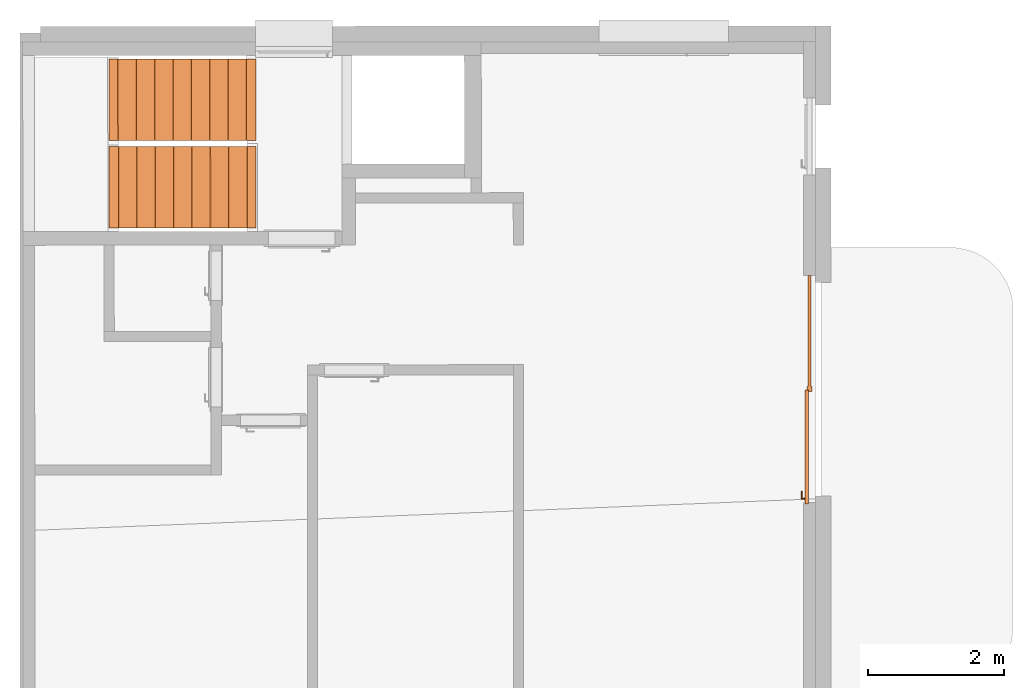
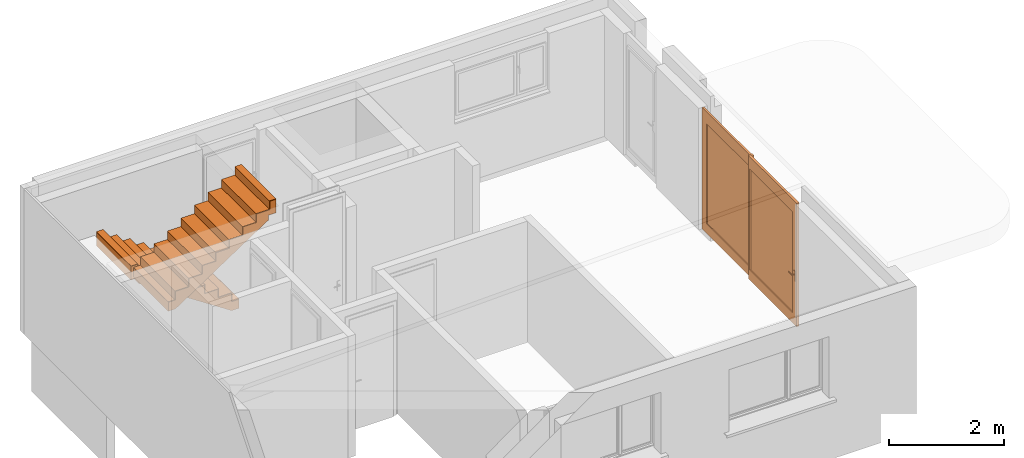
# One storey, part 7 of 8: 5 proxies.
"""IFC2X3 building model written with IfcOpenShell, lengths in metres."""

from ifc_helpers import new_model, entity, si_unit, converted_unit, derived_unit, direction, frame, origin, origin_with_axes, place, context, subcontext, project, spatial, closed_shell, open_shell, faceted_brep, surface_model, source, transform, mapped, element, save


model = new_model("IFC2X3")

# Units and contexts
model_context = context("Model", 3, precision=1e-05, world=origin(), true_north=direction((0.772621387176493, -0.634867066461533)))
body_context = subcontext(model_context, "Body", "Model", "MODEL_VIEW")
ifc_project = project(units=[si_unit("LENGTHUNIT", "METRE"), si_unit("AREAUNIT", "SQUARE_METRE"), si_unit("VOLUMEUNIT", "CUBIC_METRE"), si_unit("MASSUNIT", "GRAM", prefix="KILO"), converted_unit("PLANEANGLEUNIT", "DEGREE", entity("IfcPlaneAngleMeasure", 0.0174532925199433), si_unit("PLANEANGLEUNIT", "RADIAN"), dimensions=[0, 0, 0, 0, 0, 0, 0]), derived_unit("THERMALTRANSMITTANCEUNIT", [(si_unit("POWERUNIT", "WATT"), 1), (si_unit("THERMODYNAMICTEMPERATUREUNIT", "KELVIN"), -1), (si_unit("LENGTHUNIT", "METRE"), -2)]), derived_unit("VOLUMETRICFLOWRATEUNIT", [(si_unit("LENGTHUNIT", "METRE"), 3), (converted_unit("TIMEUNIT", "hour", entity("IfcTimeMeasure", 3600.0), si_unit("TIMEUNIT", "SECOND"), dimensions=[0, 0, 1, 0, 0, 0, 0]), -1), (si_unit("LENGTHUNIT", "METRE"), -1)])], contexts=[model_context])

# Site, building, storey
site_placement = place(None, origin())
site = spatial("IfcSite", under=ifc_project, at=site_placement, Name="Modelle auf dem Nullpunkt", CompositionType="ELEMENT")
building_placement = place(site_placement, origin())
building = spatial("IfcBuilding", under=site, at=building_placement, Name="I", CompositionType="ELEMENT")
storey_placement = place(building_placement, origin())
storey = spatial("IfcBuildingStorey", under=building, at=storey_placement, Name="2.OG", CompositionType="ELEMENT", Elevation=0.0)

# Proxies
shared_shape = source(origin_with_axes(), body_context, "Body", "SurfaceModel", [
    surface_model("IfcShellBasedSurfaceModel", [(1.65500000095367, 0.0, 2.59), (1.72500000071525, 0.0, 2.59), (1.72500000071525, 0.0, 0.02), (1.65500000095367, 0.0, 0.02), (1.65500000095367, 0.0699999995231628, 0.02), (1.72500000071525, 0.07, 0.02), (1.72500000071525, 0.07, 2.59), (1.65500000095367, 0.0699999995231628, 2.59)], [closed_shell([[[0, 1, 2, 3]], [[4, 5, 6, 7]], [[3, 4, 7, 0]], [[2, 5, 4, 3]], [[1, 6, 5, 2]], [[0, 7, 6, 1]]], orient=[[False], [False], [False], [False], [False], [False]])]),
    surface_model("IfcShellBasedSurfaceModel", [(0.0, 0.0499999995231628, 2.61), (0.15, 0.05, 2.61), (0.15, 0.05, 0.0), (0.0, 0.0499999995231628, 0.0), (0.0, 0.0999999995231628, 0.0), (0.150000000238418, 0.0999999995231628, 0.0), (0.150000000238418, 0.0999999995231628, 2.61), (0.0, 0.0999999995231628, 2.61)], [closed_shell([[[0, 1, 2, 3]], [[4, 5, 6, 7]], [[3, 4, 7, 0]], [[2, 5, 4, 3]], [[1, 6, 5, 2]], [[0, 7, 6, 1]]], orient=[[False], [False], [False], [False], [False], [False]])]),
    surface_model("IfcShellBasedSurfaceModel", [(1.63500000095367, 0.05, 2.61), (1.67500000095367, 0.05, 2.61), (1.67500000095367, 0.05, 0.0), (1.63500000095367, 0.05, 0.0), (1.63500000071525, 0.0999999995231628, 0.0), (1.67500000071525, 0.0999999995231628, 0.0), (1.67500000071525, 0.0999999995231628, 2.61), (1.63500000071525, 0.0999999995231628, 2.61)], [closed_shell([[[0, 1, 2, 3]], [[4, 5, 6, 7]], [[3, 4, 7, 0]], [[2, 5, 4, 3]], [[1, 6, 5, 2]], [[0, 7, 6, 1]]], orient=[[False], [False], [False], [False], [False], [False]])]),
    surface_model("IfcShellBasedSurfaceModel", [(0.15, 0.05, 0.21), (1.63500000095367, 0.05, 0.21), (1.63500000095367, 0.05, 0.0), (0.15, 0.05, 0.0), (0.150000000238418, 0.0999999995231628, 0.0), (1.63500000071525, 0.0999999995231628, 0.0), (1.63500000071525, 0.0999999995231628, 0.21), (0.150000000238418, 0.0999999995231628, 0.21)], [closed_shell([[[0, 1, 2, 3]], [[4, 5, 6, 7]], [[3, 4, 7, 0]], [[2, 5, 4, 3]], [[1, 6, 5, 2]], [[0, 7, 6, 1]]], orient=[[False], [False], [False], [False], [False], [False]])]),
    surface_model("IfcShellBasedSurfaceModel", [(0.15, 0.05, 2.61), (1.63500000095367, 0.05, 2.61), (1.63500000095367, 0.05, 2.35), (0.15, 0.05, 2.35), (0.150000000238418, 0.0999999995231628, 2.35), (1.63500000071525, 0.0999999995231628, 2.35), (1.63500000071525, 0.0999999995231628, 2.61), (0.150000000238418, 0.0999999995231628, 2.61)], [closed_shell([[[0, 1, 2, 3]], [[4, 5, 6, 7]], [[3, 4, 7, 0]], [[2, 5, 4, 3]], [[1, 6, 5, 2]], [[0, 7, 6, 1]]], orient=[[False], [False], [False], [False], [False], [False]])]),
    surface_model("IfcShellBasedSurfaceModel", [(0.0500000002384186, 0.0999999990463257, 1.145), (0.100000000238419, 0.0999999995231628, 1.145), (0.100000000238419, 0.0999999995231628, 0.93), (0.0500000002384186, 0.0999999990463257, 0.93), (0.0500000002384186, 0.109999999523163, 0.93), (0.100000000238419, 0.109999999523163, 0.93), (0.100000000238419, 0.109999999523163, 1.145), (0.0500000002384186, 0.109999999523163, 1.145)], [closed_shell([[[0, 1, 2, 3]], [[4, 5, 6, 7]], [[3, 4, 7, 0]], [[2, 5, 4, 3]], [[1, 6, 5, 2]], [[0, 7, 6, 1]]], orient=[[False], [False], [False], [False], [False], [False]])]),
    surface_model("IfcShellBasedSurfaceModel", [(0.0750000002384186, 0.109999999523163, 1.08), (0.08, 0.109999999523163, 1.07866025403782), (0.0836602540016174, 0.109999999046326, 1.075), (0.0850000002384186, 0.109999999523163, 1.07), (0.0836602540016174, 0.109999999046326, 1.065), (0.08, 0.109999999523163, 1.06133974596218), (0.0750000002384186, 0.109999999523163, 1.06), (0.0700000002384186, 0.109999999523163, 1.06133974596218), (0.0663397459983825, 0.109999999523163, 1.065), (0.065, 0.109999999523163, 1.07), (0.0663397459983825, 0.109999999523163, 1.075), (0.0700000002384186, 0.109999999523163, 1.07866025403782), (0.0700000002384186, 0.154999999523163, 1.07866025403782), (0.0750000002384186, 0.149999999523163, 1.08), (0.0663397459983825, 0.158660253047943, 1.075), (0.065, 0.159999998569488, 1.07), (0.0663397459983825, 0.158660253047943, 1.065), (0.0700000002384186, 0.154999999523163, 1.06133974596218), (0.0750000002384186, 0.149999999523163, 1.06), (0.0800000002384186, 0.144999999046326, 1.06133974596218), (0.083660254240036, 0.141339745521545, 1.065), (0.085, 0.139999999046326, 1.07), (0.083660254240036, 0.141339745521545, 1.075), (0.0800000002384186, 0.144999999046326, 1.07866025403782), (0.19, 0.149999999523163, 1.08), (0.19, 0.154999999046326, 1.07866025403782), (0.19, 0.158660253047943, 1.075), (0.19, 0.159999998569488, 1.07), (0.19, 0.158660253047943, 1.065), (0.19, 0.154999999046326, 1.06133974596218), (0.19, 0.149999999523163, 1.06), (0.19, 0.144999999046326, 1.06133974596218), (0.190000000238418, 0.141339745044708, 1.065), (0.19, 0.139999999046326, 1.07), (0.190000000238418, 0.141339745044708, 1.075), (0.19, 0.144999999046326, 1.07866025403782)], [closed_shell([[[0, 1, 2, 3, 4, 5, 6, 7, 8, 9, 10, 11]], [[0, 11, 12, 13]], [[11, 10, 14, 12]], [[10, 9, 15, 14]], [[9, 8, 16, 15]], [[8, 7, 17, 16]], [[7, 6, 18, 17]], [[6, 5, 19, 18]], [[5, 4, 20, 19]], [[4, 3, 21, 20]], [[3, 2, 22, 21]], [[2, 1, 23, 22]], [[1, 0, 13, 23]], [[24, 25, 26, 27, 28, 29, 30, 31, 32, 33, 34, 35]], [[13, 12, 25, 24]], [[12, 14, 26, 25]], [[14, 15, 27, 26]], [[15, 16, 28, 27]], [[16, 17, 29, 28]], [[17, 18, 30, 29]], [[18, 19, 31, 30]], [[19, 20, 32, 31]], [[20, 21, 33, 32]], [[21, 22, 34, 33]], [[22, 23, 35, 34]], [[23, 13, 24, 35]]], orient=[[False], [False], [False], [False], [False], [False], [False], [False], [False], [False], [False], [False], [False], [False], [False], [False], [False], [False], [False], [False], [False], [False], [False], [False], [False], [False]])]),
    surface_model("IfcShellBasedSurfaceModel", [(1.72500000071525, 0.015, 2.59), (1.74500000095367, 0.015, 2.59), (1.74500000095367, 0.015, 0.02), (1.72500000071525, 0.015, 0.02), (1.72500000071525, 0.055, 0.02), (1.74500000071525, 0.055, 0.02), (1.74500000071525, 0.055, 2.59), (1.72500000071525, 0.055, 2.59)], [closed_shell([[[0, 1, 2, 3]], [[4, 5, 6, 7]], [[3, 4, 7, 0]], [[2, 5, 4, 3]], [[1, 6, 5, 2]], [[0, 7, 6, 1]]], orient=[[False], [False], [False], [False], [False], [False]])]),
    surface_model("IfcShellBasedSurfaceModel", [(3.21000000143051, 0.015, 2.59), (3.36000000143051, 0.0149999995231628, 2.59), (3.36000000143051, 0.0149999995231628, 0.02), (3.21000000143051, 0.015, 0.02), (3.21000000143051, 0.055, 0.02), (3.36000000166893, 0.055, 0.02), (3.36000000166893, 0.055, 2.59), (3.21000000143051, 0.055, 2.59)], [closed_shell([[[0, 1, 2, 3]], [[4, 5, 6, 7]], [[3, 4, 7, 0]], [[2, 5, 4, 3]], [[1, 6, 5, 2]], [[0, 7, 6, 1]]], orient=[[False], [False], [False], [False], [False], [False]])]),
    surface_model("IfcShellBasedSurfaceModel", [(1.74500000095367, 0.015, 0.22), (3.21000000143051, 0.015, 0.22), (3.21000000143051, 0.015, 0.02), (1.74500000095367, 0.015, 0.02), (1.74500000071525, 0.055, 0.02), (3.21000000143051, 0.055, 0.02), (3.21000000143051, 0.055, 0.22), (1.74500000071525, 0.055, 0.22)], [closed_shell([[[0, 1, 2, 3]], [[4, 5, 6, 7]], [[3, 4, 7, 0]], [[2, 5, 4, 3]], [[1, 6, 5, 2]], [[0, 7, 6, 1]]], orient=[[False], [False], [False], [False], [False], [False]])]),
    surface_model("IfcShellBasedSurfaceModel", [(1.74500000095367, 0.015, 2.59), (3.21000000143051, 0.015, 2.59), (3.21000000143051, 0.015, 2.34), (1.74500000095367, 0.015, 2.34), (1.74500000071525, 0.055, 2.34), (3.21000000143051, 0.055, 2.34), (3.21000000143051, 0.055, 2.59), (1.74500000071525, 0.055, 2.59)], [closed_shell([[[0, 1, 2, 3]], [[4, 5, 6, 7]], [[3, 4, 7, 0]], [[2, 5, 4, 3]], [[1, 6, 5, 2]], [[0, 7, 6, 1]]], orient=[[False], [False], [False], [False], [False], [False]])]),
    surface_model("IfcShellBasedSurfaceModel", [(0.150000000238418, 0.0749999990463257, 0.21), (0.150000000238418, 0.0749999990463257, 2.35), (1.63500000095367, 0.0749999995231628, 2.35), (1.63500000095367, 0.0749999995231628, 0.21)], [open_shell([[[0, 1, 2, 3]]], orient=[[False]])]),
    surface_model("IfcShellBasedSurfaceModel", [(1.74500000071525, 0.035, 0.22), (1.74500000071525, 0.035, 2.34), (3.21000000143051, 0.0349999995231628, 2.34), (3.21000000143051, 0.0349999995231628, 0.22)], [open_shell([[[0, 1, 2, 3]]], orient=[[False]])]),
])
proxy_1_placement = place(storey_placement, frame((40.9768506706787, -4.65928245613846, 441.65), z_axis=(0.0, 0.0, 1.0), x_axis=(-0.000353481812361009, 0.999999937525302, 0.0)))
element("IfcBuildingElementProxy", 1, at=proxy_1_placement, inside=storey, Name="1flg Weiß Blockzarge", context=body_context, shape_type="MappedRepresentation", body=[
    mapped(shared_shape, transform((0.0, 0.0, 0.0), x_axis=(1.0, 0.0, 0.0), y_axis=(0.0, 1.0, 0.0), z_axis=(0.0, 0.0, 1.0), scale=1.0)),
])
proxy_2_placement = place(storey_placement, frame((30.6378226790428, -0.602936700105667, 443.103258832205)))
element("IfcBuildingElementProxy", 2, at=proxy_2_placement, inside=storey, context=body_context, shape_type="Brep", body=[
    faceted_brep([(2.0350686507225, 1.20071928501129, 1.6167079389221), (2.0350686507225, 1.20071928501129, 1.43860688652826), (1.76506008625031, 1.20062384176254, 1.43860688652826), (1.76506008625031, 1.20062384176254, 1.26046397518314), (1.49505565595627, 1.20052840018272, 1.26046397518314), (1.49505565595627, 1.20052840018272, 1.08232054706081), (1.22504683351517, 1.20043295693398, 1.08232054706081), (1.22504683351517, 1.20043295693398, 0.904220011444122), (0.95504240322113, 1.20033751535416, 0.904220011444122), (0.95504240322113, 1.20033751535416, 0.726077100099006), (0.685054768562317, 1.2002420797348, 0.726077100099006), (0.685054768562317, 1.2002420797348, 0.547933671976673), (0.415045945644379, 1.20014663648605, 0.547933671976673), (0.415045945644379, 1.20014663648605, 0.369833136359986), (0.14503763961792, 1.20005119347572, 0.369833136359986), (0.14503763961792, 1.20005119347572, 0.191689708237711), (0.0, 1.19999992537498, 0.191689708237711), (0.0, 1.19999992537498, 0.0), (0.14503763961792, 1.20005119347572, 0.0), (2.00506637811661, 1.20070867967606, 1.22710445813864), (2.00506637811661, 1.20070867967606, 1.32857985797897), (2.16007368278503, 1.20076347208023, 1.32857985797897), (2.16007368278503, 1.20076347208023, 1.6167079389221), (2.03549282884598, 0.000719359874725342, 1.6167079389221), (2.16049786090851, 0.000763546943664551, 1.6167079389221), (2.16049786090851, 0.000763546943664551, 1.32857985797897), (2.00549055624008, 0.000708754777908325, 1.32857985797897), (2.00549055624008, 0.000708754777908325, 1.22710445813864), (0.145461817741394, 5.12683391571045e-05, 0.0), (0.000424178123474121, 0.0, 0.0), (0.000424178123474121, 0.0, 0.191689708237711), (0.145461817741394, 5.12683391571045e-05, 0.191689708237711), (0.145461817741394, 5.12683391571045e-05, 0.369833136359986), (0.415470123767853, 0.000146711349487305, 0.369833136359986), (0.415470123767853, 0.000146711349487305, 0.547933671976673), (0.685478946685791, 0.000242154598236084, 0.547933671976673), (0.685478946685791, 0.000242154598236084, 0.726077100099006), (0.955466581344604, 0.000337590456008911, 0.726077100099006), (0.955466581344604, 0.000337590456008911, 0.904220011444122), (1.22547101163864, 0.000433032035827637, 0.904220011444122), (1.22547101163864, 0.000433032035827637, 1.08232054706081), (1.49547983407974, 0.000528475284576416, 1.08232054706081), (1.49547983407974, 0.000528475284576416, 1.26046397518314), (1.76548426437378, 0.000623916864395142, 1.26046397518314), (1.76548426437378, 0.000623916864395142, 1.43860688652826), (2.03549282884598, 0.000719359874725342, 1.43860688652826)], [[[0, 1, 2, 3, 4, 5, 6, 7, 8, 9, 10, 11, 12, 13, 14, 15, 16, 17, 18, 19, 20, 21, 22]], [[23, 24, 25, 26, 27, 28, 29, 30, 31, 32, 33, 34, 35, 36, 37, 38, 39, 40, 41, 42, 43, 44, 45]], [[24, 23, 0, 22]], [[25, 24, 22, 21]], [[26, 25, 21, 20]], [[27, 26, 20, 19]], [[28, 27, 19, 18]], [[29, 28, 18, 17]], [[30, 29, 17, 16]], [[31, 30, 16, 15]], [[32, 31, 15, 14]], [[33, 32, 14, 13]], [[34, 33, 13, 12]], [[35, 34, 12, 11]], [[36, 35, 11, 10]], [[37, 36, 10, 9]], [[38, 37, 9, 8]], [[39, 38, 8, 7]], [[40, 39, 7, 6]], [[41, 40, 6, 5]], [[42, 41, 5, 4]], [[43, 42, 4, 3]], [[44, 43, 3, 2]], [[45, 44, 2, 1]], [[23, 45, 1, 0]]], orient=[[False], [False], [False], [False], [False], [False], [False], [False], [False], [False], [False], [False], [False], [False], [False], [False], [False], [False], [False], [False], [False], [False], [False], [False], [False]]),
])
proxy_3_placement = place(storey_placement, frame((30.6378226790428, -0.602936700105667, 443.294948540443)))
element("IfcBuildingElementProxy", 3, at=proxy_3_placement, inside=storey, context=body_context, shape_type="Brep", body=[
    faceted_brep([(2.02506927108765, 1.20071575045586, 1.43505145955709), (2.02506927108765, 1.20071575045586, 1.25690803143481), (1.75506070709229, 1.20062030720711, 1.25690803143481), (1.75506070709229, 1.20062030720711, 1.07876512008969), (1.48505627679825, 1.20052486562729, 1.07876512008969), (1.48505627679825, 1.20052486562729, 0.90066406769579), (1.21504745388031, 1.20042942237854, 0.90066406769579), (1.21504745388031, 1.20042942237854, 0.722521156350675), (0.94504302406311, 1.20033398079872, 0.722521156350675), (0.94504302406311, 1.20033398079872, 0.544378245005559), (0.675021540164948, 1.20023853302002, 0.544378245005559), (0.675021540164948, 1.20023853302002, 0.366234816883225), (0.405012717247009, 1.20014308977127, 0.366234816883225), (0.405012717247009, 1.20014308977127, 0.188134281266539), (0.135004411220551, 1.20004764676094, 0.188134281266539), (0.135004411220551, 1.20004764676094, 0.00999136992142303), (0.0, 1.19999992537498, 0.00999136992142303), (0.0, 1.19999992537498, 0.0), (0.14503763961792, 1.20005119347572, 0.0), (0.14503763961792, 1.20005119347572, 0.178143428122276), (0.415045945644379, 1.20014663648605, 0.178143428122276), (0.415045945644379, 1.20014663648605, 0.356243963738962), (0.685054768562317, 1.2002420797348, 0.356243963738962), (0.685054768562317, 1.2002420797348, 0.534387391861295), (0.95504240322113, 1.20033751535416, 0.534387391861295), (0.95504240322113, 1.20033751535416, 0.712530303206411), (1.22504683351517, 1.20043295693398, 0.712530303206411), (1.22504683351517, 1.20043295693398, 0.890630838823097), (1.49505565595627, 1.20052840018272, 0.890630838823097), (1.49505565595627, 1.20052840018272, 1.06877426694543), (1.76506008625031, 1.20062384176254, 1.06877426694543), (1.76506008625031, 1.20062384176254, 1.24691717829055), (2.0350686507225, 1.20071928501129, 1.24691717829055), (2.0350686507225, 1.20071928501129, 1.42501823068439), (2.16007368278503, 1.20076347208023, 1.42501823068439), (2.16007368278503, 1.20076347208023, 1.43505145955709), (2.02549344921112, 0.000715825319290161, 1.43505145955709), (2.16049786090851, 0.000763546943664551, 1.43505145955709), (2.16049786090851, 0.000763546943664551, 1.42501823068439), (2.03549282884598, 0.000719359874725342, 1.42501823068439), (2.03549282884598, 0.000719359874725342, 1.24691717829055), (1.76548426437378, 0.000623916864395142, 1.24691717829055), (1.76548426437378, 0.000623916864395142, 1.06877426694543), (1.49547983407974, 0.000528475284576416, 1.06877426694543), (1.49547983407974, 0.000528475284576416, 0.890630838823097), (1.22547101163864, 0.000433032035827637, 0.890630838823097), (1.22547101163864, 0.000433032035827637, 0.712530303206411), (0.955466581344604, 0.000337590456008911, 0.712530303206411), (0.955466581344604, 0.000337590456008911, 0.534387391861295), (0.685478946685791, 0.000242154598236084, 0.534387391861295), (0.685478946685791, 0.000242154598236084, 0.356243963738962), (0.415470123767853, 0.000146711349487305, 0.356243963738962), (0.415470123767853, 0.000146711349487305, 0.178143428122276), (0.145461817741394, 5.12683391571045e-05, 0.178143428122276), (0.145461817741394, 5.12683391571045e-05, 0.0), (0.000424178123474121, 0.0, 0.0), (0.000424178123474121, 0.0, 0.00999136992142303), (0.135428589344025, 4.77218627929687e-05, 0.00999136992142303), (0.135428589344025, 4.77218627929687e-05, 0.188134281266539), (0.405436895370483, 0.000143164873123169, 0.188134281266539), (0.405436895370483, 0.000143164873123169, 0.366234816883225), (0.675445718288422, 0.000238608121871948, 0.366234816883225), (0.675445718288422, 0.000238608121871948, 0.544378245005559), (0.945467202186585, 0.000334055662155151, 0.544378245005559), (0.945467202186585, 0.000334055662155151, 0.722521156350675), (1.21547163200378, 0.000429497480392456, 0.722521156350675), (1.21547163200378, 0.000429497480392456, 0.90066406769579), (1.48548045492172, 0.000524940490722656, 0.90066406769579), (1.48548045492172, 0.000524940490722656, 1.07876512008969), (1.75548488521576, 0.000620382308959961, 1.07876512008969), (1.75548488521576, 0.000620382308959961, 1.25690803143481), (2.02549344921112, 0.000715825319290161, 1.25690803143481)], [[[0, 1, 2, 3, 4, 5, 6, 7, 8, 9, 10, 11, 12, 13, 14, 15, 16, 17, 18, 19, 20, 21, 22, 23, 24, 25, 26, 27, 28, 29, 30, 31, 32, 33, 34, 35]], [[36, 37, 38, 39, 40, 41, 42, 43, 44, 45, 46, 47, 48, 49, 50, 51, 52, 53, 54, 55, 56, 57, 58, 59, 60, 61, 62, 63, 64, 65, 66, 67, 68, 69, 70, 71]], [[37, 36, 0, 35]], [[38, 37, 35, 34]], [[39, 38, 34, 33]], [[40, 39, 33, 32]], [[41, 40, 32, 31]], [[42, 41, 31, 30]], [[43, 42, 30, 29]], [[44, 43, 29, 28]], [[45, 44, 28, 27]], [[46, 45, 27, 26]], [[47, 46, 26, 25]], [[48, 47, 25, 24]], [[49, 48, 24, 23]], [[50, 49, 23, 22]], [[51, 50, 22, 21]], [[52, 51, 21, 20]], [[53, 52, 20, 19]], [[54, 53, 19, 18]], [[55, 54, 18, 17]], [[56, 55, 17, 16]], [[57, 56, 16, 15]], [[58, 57, 15, 14]], [[59, 58, 14, 13]], [[60, 59, 13, 12]], [[61, 60, 12, 11]], [[62, 61, 11, 10]], [[63, 62, 10, 9]], [[64, 63, 9, 8]], [[65, 64, 8, 7]], [[66, 65, 7, 6]], [[67, 66, 6, 5]], [[68, 67, 5, 4]], [[69, 68, 4, 3]], [[70, 69, 3, 2]], [[71, 70, 2, 1]], [[36, 71, 1, 0]]], orient=[[False], [False], [False], [False], [False], [False], [False], [False], [False], [False], [False], [False], [False], [False], [False], [False], [False], [False], [False], [False], [False], [False], [False], [False], [False], [False], [False], [False], [False], [False], [False], [False], [False], [False], [False], [False], [False], [False]]),
])
proxy_4_placement = place(storey_placement, frame((30.6368631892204, 0.687063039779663, 441.820008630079)))
element("IfcBuildingElementProxy", 4, at=proxy_4_placement, inside=storey, context=body_context, shape_type="Brep", body=[
    faceted_brep([(0.135004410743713, 1.20004764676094, 1.45999136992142), (0.0, 1.19999992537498, 1.45999136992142), (0.0, 1.19999992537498, 1.44995814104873), (0.125005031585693, 1.20004411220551, 1.44995814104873), (0.125005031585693, 1.20004411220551, 1.2469171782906), (0.395013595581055, 1.20013955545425, 1.2469171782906), (0.395013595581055, 1.20013955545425, 1.06877426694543), (0.665018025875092, 1.20023499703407, 1.06877426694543), (0.665018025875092, 1.20023499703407, 0.890630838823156), (0.93502684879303, 1.20033044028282, 0.890630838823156), (0.93502684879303, 1.20033044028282, 0.712530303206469), (1.20503127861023, 1.20042588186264, 0.712530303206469), (1.20503127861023, 1.20042588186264, 0.534387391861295), (1.47501891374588, 1.20052131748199, 0.534387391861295), (1.47501891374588, 1.20052131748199, 0.35624396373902), (1.74502773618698, 1.20061676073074, 0.35624396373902), (1.74502773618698, 1.20061676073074, 0.178143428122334), (2.01503604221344, 1.20071220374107, 0.178143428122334), (2.01503604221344, 1.20071220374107, 0.0), (2.16007368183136, 1.20076347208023, 0.0), (2.16007368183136, 1.20076347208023, 0.00999136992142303), (2.02506927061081, 1.20071575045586, 0.00999136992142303), (2.02506927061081, 1.20071575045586, 0.188134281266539), (1.75506096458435, 1.20062030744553, 0.188134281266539), (1.75506096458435, 1.20062030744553, 0.366234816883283), (1.48505214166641, 1.20052486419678, 0.366234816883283), (1.48505214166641, 1.20052486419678, 0.544378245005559), (1.21503065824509, 1.20042941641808, 0.544378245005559), (1.21503065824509, 1.20042941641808, 0.722521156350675), (0.94502622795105, 1.20033397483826, 0.722521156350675), (0.94502622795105, 1.20033397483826, 0.900664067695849), (0.675017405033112, 1.20023853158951, 0.900664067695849), (0.675017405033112, 1.20023853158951, 1.07876512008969), (0.405012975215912, 1.20014309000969, 1.07876512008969), (0.405012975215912, 1.20014309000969, 1.25690803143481), (0.135004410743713, 1.20004764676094, 1.25690803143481), (0.135428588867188, 4.77218627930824e-05, 1.45999136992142), (0.135428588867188, 4.77218627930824e-05, 1.25690803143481), (0.405437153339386, 0.000143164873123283, 1.25690803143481), (0.405437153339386, 0.000143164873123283, 1.07876512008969), (0.675441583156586, 0.000238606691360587, 1.07876512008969), (0.675441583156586, 0.000238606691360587, 0.900664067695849), (0.945450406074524, 0.000334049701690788, 0.900664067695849), (0.945450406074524, 0.000334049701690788, 0.722521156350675), (1.21545483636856, 0.000429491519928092, 0.722521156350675), (1.21545483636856, 0.000429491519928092, 0.544378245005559), (1.48547631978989, 0.000524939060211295, 0.544378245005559), (1.48547631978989, 0.000524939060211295, 0.366234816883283), (1.75548514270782, 0.000620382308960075, 0.366234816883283), (1.75548514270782, 0.000620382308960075, 0.188134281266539), (2.02549344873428, 0.000715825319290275, 0.188134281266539), (2.02549344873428, 0.000715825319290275, 0.00999136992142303), (2.16049785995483, 0.000763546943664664, 0.00999136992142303), (2.16049785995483, 0.000763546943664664, 0.0), (2.01546022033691, 0.000712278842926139, 0.0), (2.01546022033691, 0.000712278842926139, 0.178143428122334), (1.74545191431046, 0.000616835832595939, 0.178143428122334), (1.74545191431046, 0.000616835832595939, 0.35624396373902), (1.47544309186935, 0.00052139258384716, 0.35624396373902), (1.47544309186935, 0.00052139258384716, 0.534387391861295), (1.2054554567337, 0.000425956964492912, 0.534387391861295), (1.2054554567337, 0.000425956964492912, 0.712530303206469), (0.935451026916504, 0.000330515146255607, 0.712530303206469), (0.935451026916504, 0.000330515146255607, 0.890630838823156), (0.665442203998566, 0.000235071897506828, 0.890630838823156), (0.665442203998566, 0.000235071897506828, 1.06877426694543), (0.395437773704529, 0.000139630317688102, 1.06877426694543), (0.395437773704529, 0.000139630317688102, 1.2469171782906), (0.125429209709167, 4.41873073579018e-05, 1.2469171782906), (0.125429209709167, 4.41873073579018e-05, 1.44995814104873), (0.000424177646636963, 0.0, 1.44995814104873), (0.000424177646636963, 0.0, 1.45999136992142)], [[[0, 1, 2, 3, 4, 5, 6, 7, 8, 9, 10, 11, 12, 13, 14, 15, 16, 17, 18, 19, 20, 21, 22, 23, 24, 25, 26, 27, 28, 29, 30, 31, 32, 33, 34, 35]], [[36, 37, 38, 39, 40, 41, 42, 43, 44, 45, 46, 47, 48, 49, 50, 51, 52, 53, 54, 55, 56, 57, 58, 59, 60, 61, 62, 63, 64, 65, 66, 67, 68, 69, 70, 71]], [[71, 1, 0, 36]], [[70, 2, 1, 71]], [[69, 3, 2, 70]], [[68, 4, 3, 69]], [[67, 5, 4, 68]], [[66, 6, 5, 67]], [[65, 7, 6, 66]], [[64, 8, 7, 65]], [[63, 9, 8, 64]], [[62, 10, 9, 63]], [[61, 11, 10, 62]], [[60, 12, 11, 61]], [[59, 13, 12, 60]], [[58, 14, 13, 59]], [[57, 15, 14, 58]], [[56, 16, 15, 57]], [[55, 17, 16, 56]], [[54, 18, 17, 55]], [[53, 19, 18, 54]], [[52, 20, 19, 53]], [[51, 21, 20, 52]], [[50, 22, 21, 51]], [[49, 23, 22, 50]], [[48, 24, 23, 49]], [[47, 25, 24, 48]], [[46, 26, 25, 47]], [[45, 27, 26, 46]], [[44, 28, 27, 45]], [[43, 29, 28, 44]], [[42, 30, 29, 43]], [[41, 31, 30, 42]], [[40, 32, 31, 41]], [[39, 33, 32, 40]], [[38, 34, 33, 39]], [[37, 35, 34, 38]], [[36, 0, 35, 37]]], orient=[[False], [False], [False], [False], [False], [False], [False], [False], [False], [False], [False], [False], [False], [False], [False], [False], [False], [False], [False], [False], [False], [False], [False], [False], [False], [False], [False], [False], [False], [False], [False], [False], [False], [False], [False], [False], [False], [False]]),
])
proxy_5_placement = place(storey_placement, frame((30.6368631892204, 0.687063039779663, 441.628318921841)))
element("IfcBuildingElementProxy", 5, at=proxy_5_placement, inside=storey, context=body_context, shape_type="Brep", body=[
    faceted_brep([(0.125005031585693, 1.20004411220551, 1.64164784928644), (0.0, 1.19999992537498, 1.64164784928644), (0.0, 1.19999992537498, 1.35351976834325), (0.155007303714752, 1.20005471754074, 1.35351976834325), (0.155007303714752, 1.20005471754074, 1.22710445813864), (2.01503604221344, 1.20071220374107, 0.0), (2.16007368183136, 1.20076347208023, 0.0), (2.16007368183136, 1.20076347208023, 0.191689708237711), (2.01503604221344, 1.20071220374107, 0.191689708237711), (2.01503604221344, 1.20071220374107, 0.369833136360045), (1.74502773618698, 1.20061676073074, 0.369833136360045), (1.74502773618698, 1.20061676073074, 0.547933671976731), (1.47501891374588, 1.20052131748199, 0.547933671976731), (1.47501891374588, 1.20052131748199, 0.726077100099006), (1.20503127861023, 1.20042588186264, 0.726077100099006), (1.20503127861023, 1.20042588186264, 0.90422001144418), (0.93502684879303, 1.20033044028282, 0.90422001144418), (0.93502684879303, 1.20033044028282, 1.08232054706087), (0.665018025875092, 1.20023499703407, 1.08232054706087), (0.665018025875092, 1.20023499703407, 1.26046397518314), (0.395013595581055, 1.20013955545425, 1.26046397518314), (0.395013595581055, 1.20013955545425, 1.43860688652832), (0.125005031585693, 1.20004411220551, 1.43860688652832), (0.125429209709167, 4.41873073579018e-05, 1.64164784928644), (0.125429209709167, 4.41873073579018e-05, 1.43860688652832), (0.395437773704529, 0.000139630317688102, 1.43860688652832), (0.395437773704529, 0.000139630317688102, 1.26046397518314), (0.665442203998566, 0.000235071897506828, 1.26046397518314), (0.665442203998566, 0.000235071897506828, 1.08232054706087), (0.935451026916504, 0.000330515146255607, 1.08232054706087), (0.935451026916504, 0.000330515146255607, 0.90422001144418), (1.2054554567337, 0.000425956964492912, 0.90422001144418), (1.2054554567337, 0.000425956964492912, 0.726077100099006), (1.47544309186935, 0.00052139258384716, 0.726077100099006), (1.47544309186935, 0.00052139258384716, 0.547933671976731), (1.74545191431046, 0.000616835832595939, 0.547933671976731), (1.74545191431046, 0.000616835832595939, 0.369833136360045), (2.01546022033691, 0.000712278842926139, 0.369833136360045), (2.01546022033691, 0.000712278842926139, 0.191689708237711), (2.16049785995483, 0.000763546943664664, 0.191689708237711), (2.16049785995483, 0.000763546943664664, 0.0), (2.01546022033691, 0.000712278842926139, 0.0), (0.155431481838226, 5.47924041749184e-05, 1.22710445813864), (0.155431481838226, 5.47924041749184e-05, 1.35351976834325), (0.000424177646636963, 0.0, 1.35351976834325), (0.000424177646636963, 0.0, 1.64164784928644)], [[[0, 1, 2, 3, 4, 5, 6, 7, 8, 9, 10, 11, 12, 13, 14, 15, 16, 17, 18, 19, 20, 21, 22]], [[23, 24, 25, 26, 27, 28, 29, 30, 31, 32, 33, 34, 35, 36, 37, 38, 39, 40, 41, 42, 43, 44, 45]], [[45, 1, 0, 23]], [[44, 2, 1, 45]], [[43, 3, 2, 44]], [[42, 4, 3, 43]], [[41, 5, 4, 42]], [[40, 6, 5, 41]], [[39, 7, 6, 40]], [[38, 8, 7, 39]], [[37, 9, 8, 38]], [[36, 10, 9, 37]], [[35, 11, 10, 36]], [[34, 12, 11, 35]], [[33, 13, 12, 34]], [[32, 14, 13, 33]], [[31, 15, 14, 32]], [[30, 16, 15, 31]], [[29, 17, 16, 30]], [[28, 18, 17, 29]], [[27, 19, 18, 28]], [[26, 20, 19, 27]], [[25, 21, 20, 26]], [[24, 22, 21, 25]], [[23, 0, 22, 24]]], orient=[[False], [False], [False], [False], [False], [False], [False], [False], [False], [False], [False], [False], [False], [False], [False], [False], [False], [False], [False], [False], [False], [False], [False], [False], [False]]),
])

save(model, "model.ifc")
